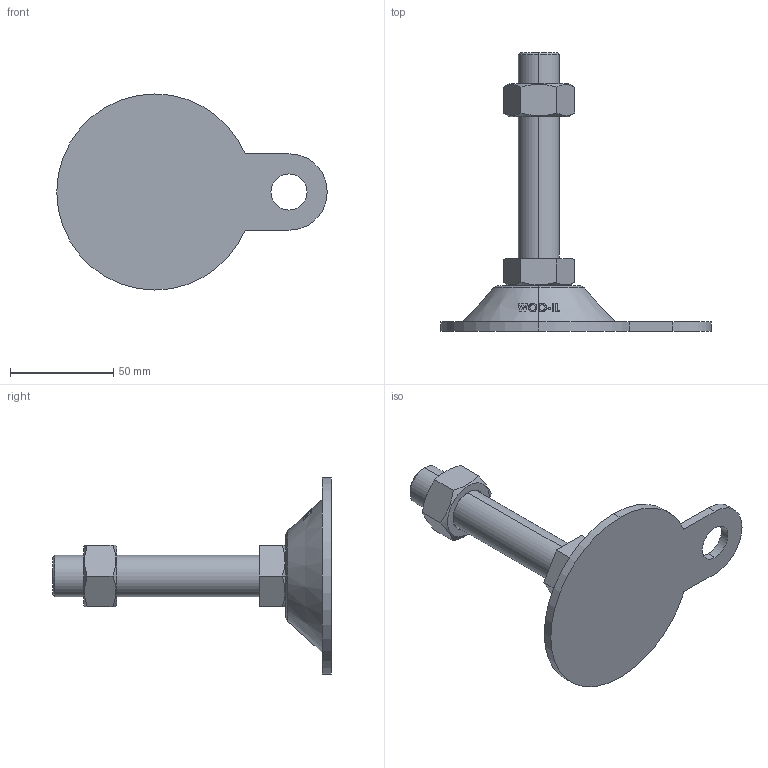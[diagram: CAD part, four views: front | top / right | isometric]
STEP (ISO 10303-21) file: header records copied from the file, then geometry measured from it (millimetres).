
FILE_DESCRIPTION (( 'STEP AP214' ), '1' );
FILE_NAME ('ABL95-M20-100.step', '2021-02-05T04:21:23', ( '' ), ( '' ), 'SwSTEP 2.0', 'SolidWorks 2019', '' );
FILE_SCHEMA (( 'AUTOMOTIVE_DESIGN' ));
Length unit declared in the file: millimetre
Products named in the file (2): ABL95-M20-100
Bounding box: 131 x 135 x 95 mm (x, y, z)
Volume: 132434.6 mm3; surface area: 30729.9 mm2
Topology: 2 solids, 2 shells, 128 faces, 332 edges, 218 vertices
Faces by surface type: plane 48, cylinder 38, cone 22, bspline 18, torus 2
Entity records: 5494 total; most frequent: CARTESIAN_POINT 2574, ORIENTED_EDGE 664, DIRECTION 474, EDGE_CURVE 332, VERTEX_POINT 218, AXIS2_PLACEMENT_3D 176, B_SPLINE_CURVE_WITH_KNOTS 146, EDGE_LOOP 142
